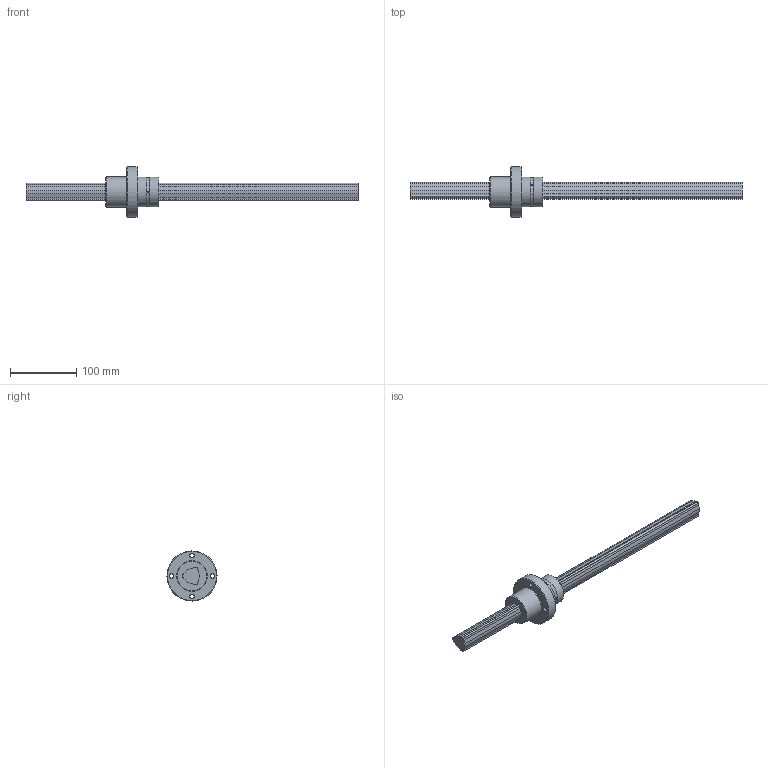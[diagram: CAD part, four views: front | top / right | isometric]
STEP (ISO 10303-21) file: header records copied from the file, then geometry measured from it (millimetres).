
FILE_DESCRIPTION(/* description */ ('STEP AP214'),/* implementation_level */ '2;1');
FILE_NAME(/* name */ 'LBR30+500L(801200)',/* time_stamp */ '2024-09-04T13:07:43+02:00',/* author */ ('License CC BY-ND 4.0'),/* organization */ ('CADENAS'),/* preprocessor_version */ 'ST-DEVELOPER v19.3',/* originating_system */ 'PARTsolutions',/* authorisation */ ' ');
FILE_SCHEMA (('AUTOMOTIVE_DESIGN {1 0 10303 214 3 1 1}'));
Length unit declared in the file: millimetre
Products named in the file (3): LBR30+500L(801200); LBR301500 Spline Shaft; LBR30 Nut
Assembly tree (2 placements, depth 2):
  LBR30+500L(801200)
    LBR301500 Spline Shaft
    LBR30 Nut
Bounding box: 500 x 75.4 x 75.4 mm (x, y, z)
Volume: 367135 mm3; surface area: 72285.3 mm2
Topology: 2 solids, 2 shells, 63 faces, 158 edges, 104 vertices
Faces by surface type: cylinder 35, plane 21, torus 5, cone 2
Full cylindrical faces by diameter (mm): 3 x3, 6.6 x4, 45 x2, 45.4 x1, 75.4 x1
Entity records: 1912 total; most frequent: DIRECTION 338, CARTESIAN_POINT 338, ORIENTED_EDGE 272, AXIS2_PLACEMENT_3D 139, EDGE_CURVE 136, VERTEX_POINT 100, EDGE_LOOP 96, FACE_BOUND 96
